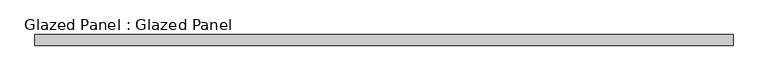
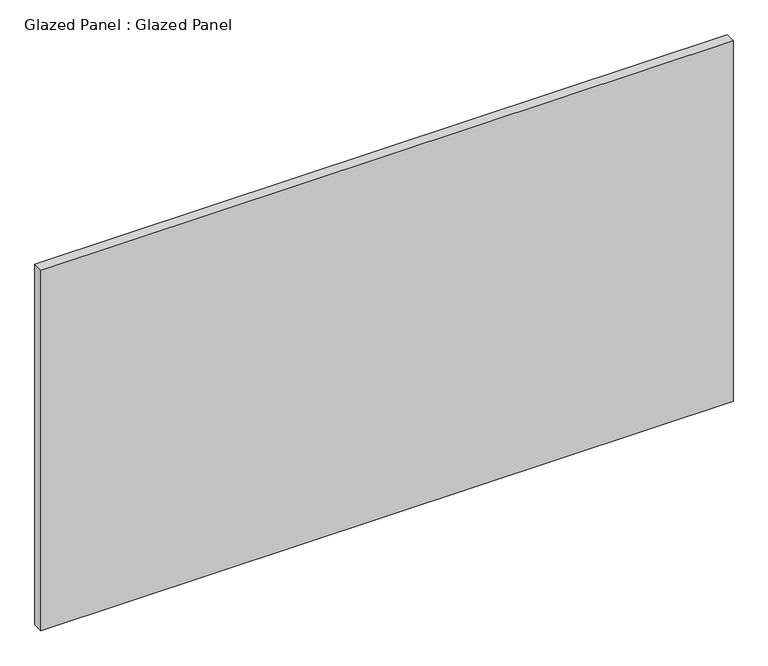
"""IFC4 building model written with IfcOpenShell, lengths in millimetres: plate geometry, Glazed Panel : Glazed Panel."""

from ifc_helpers import new_model, si_unit, origin, origin_with_axes, place, context, project, spatial, polyline, outline, extrude, source, transform, mapped, element, save


def glazed_panel_glazed_panel_7ef709c1(model_context):
    return source(origin(), model_context, "Body", "SweptSolid", [
        extrude(outline(polyline([(835.8873557, -38.1), (835.8873557, -63.5), (-835.8873557, -63.5), (-835.8873557, -38.1), (835.8873557, -38.1)])), origin_with_axes(), (0.0, 0.0, 1.0), 920.75),
    ])


if __name__ == "__main__":
    model = new_model("IFC4")
    model_context = context("Model", 3, world=origin())
    ifc_project = project(units=[si_unit("LENGTHUNIT", "METRE", prefix="MILLI")], contexts=[model_context])
    site = spatial("IfcSite", under=ifc_project)
    building = spatial("IfcBuilding", under=site)
    placement = place(None, origin())
    glazed_panel_glazed_panel_shape = glazed_panel_glazed_panel_7ef709c1(model_context)
    element("IfcPlate", 1, ObjectType="Glazed Panel : Glazed Panel", at=placement, inside=building, context=model_context, shape_type="MappedRepresentation", body=[
        mapped(glazed_panel_glazed_panel_shape, transform((0.0, 0.0, 0.0), x_axis=(1.0, 0.0, 0.0), y_axis=(0.0, 1.0, 0.0), z_axis=(0.0, 0.0, 1.0))),
    ])
    save(model, "model.ifc")
